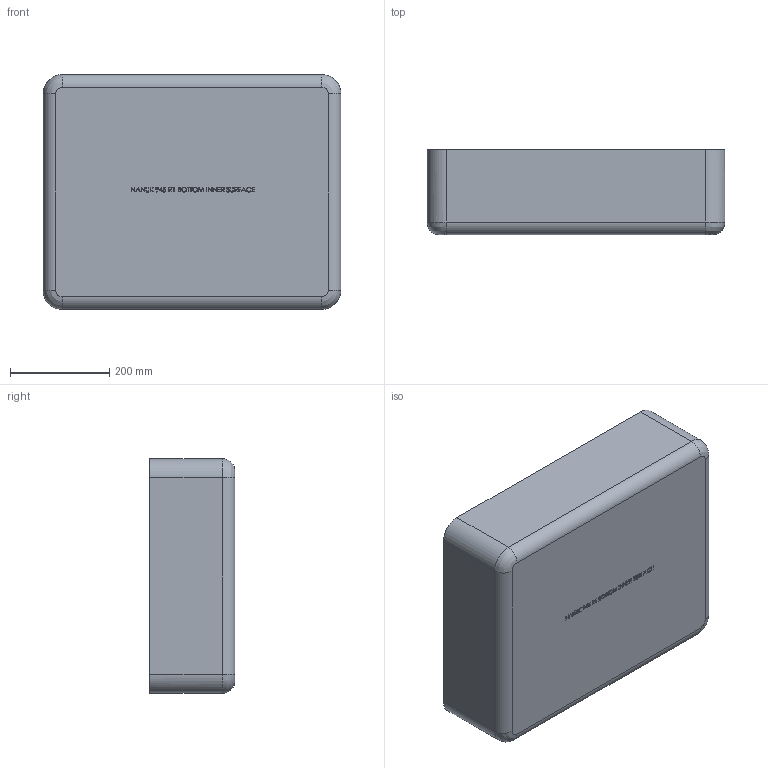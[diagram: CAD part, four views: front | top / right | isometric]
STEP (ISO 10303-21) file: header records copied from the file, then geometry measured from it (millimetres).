
FILE_DESCRIPTION (( 'STEP AP203' ), '1' );
FILE_NAME ('945_R1_INNER_SURFACE_STEP.STEP', '2021-06-16T14:22:25', ( '' ), ( '' ), 'SwSTEP 2.0', 'SolidWorks 2020', '' );
FILE_SCHEMA (( 'CONFIG_CONTROL_DESIGN' ));
Products named in the file (1): 945_R1_INNER_SURFACE_STEP
Bounding box: 600.34 x 172.47 x 473.34 mm (x, y, z)
Volume: 10559801.8 mm3; surface area: 1183154.3 mm2
Topology: 1 solids, 1 shells, 1763 faces, 4176 edges, 2502 vertices
Faces by surface type: bspline 666, plane 504, cylinder 368, torus 155, cone 70
Entity records: 85977 total; most frequent: CARTESIAN_POINT 50667, ORIENTED_EDGE 8236, DIRECTION 6155, EDGE_CURVE 4118, VERTEX_POINT 2502, AXIS2_PLACEMENT_3D 2312, EDGE_LOOP 1908, ADVANCED_FACE 1763
